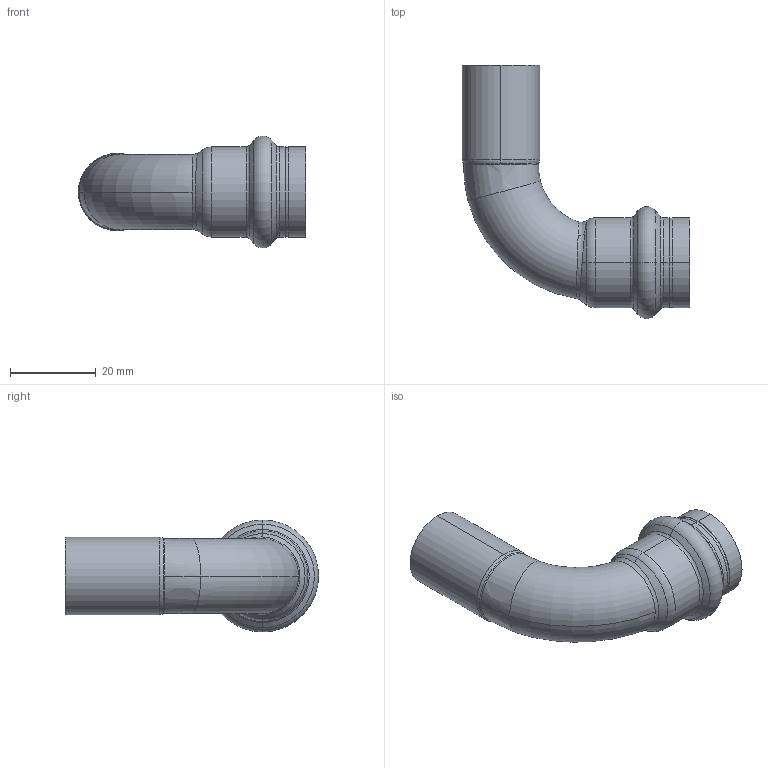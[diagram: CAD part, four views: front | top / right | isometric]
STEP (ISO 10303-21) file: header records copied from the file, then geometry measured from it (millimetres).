
FILE_DESCRIPTION (( 'STEP AP203' ), '1' );
FILE_NAME ('SP5001 Ø18.STEP', '2017-04-24T07:56:35', ( '' ), ( '' ), 'SwSTEP 2.0', 'SolidWorks 2016', '' );
FILE_SCHEMA (( 'CONFIG_CONTROL_DESIGN' ));
Length unit declared in the file: millimetre
Products named in the file (1): SP5001 ﾘ18
Bounding box: 53 x 59.05 x 26.1 mm (x, y, z)
Volume: 6947.7 mm3; surface area: 9307 mm2
Topology: 1 solids, 1 shells, 68 faces, 149 edges, 85 vertices
Faces by surface type: torus 24, cylinder 16, cone 14, bspline 10, plane 4
Entity records: 3517 total; most frequent: CARTESIAN_POINT 1982, DIRECTION 323, ORIENTED_EDGE 298, EDGE_CURVE 149, AXIS2_PLACEMENT_3D 147, CIRCLE 88, VERTEX_POINT 85, EDGE_LOOP 72
